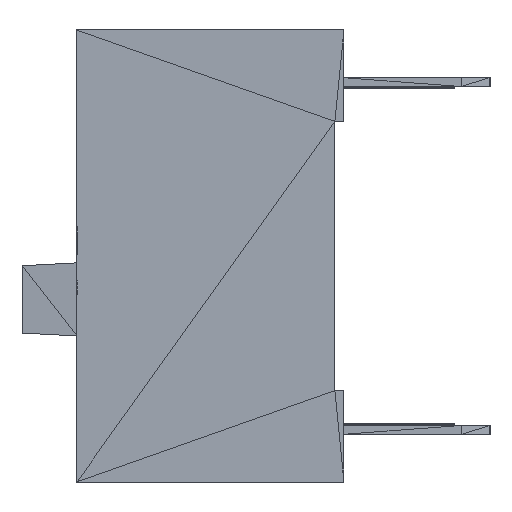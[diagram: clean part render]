
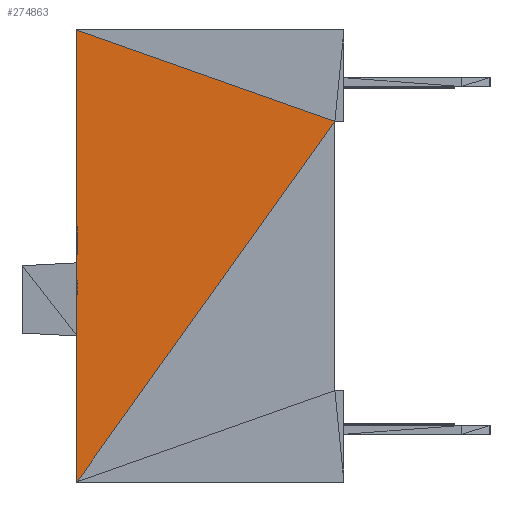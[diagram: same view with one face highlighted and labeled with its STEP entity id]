
A CAD part, left-side view. The second image highlights one B-rep face of the part: STEP entity #274863.
In plain terms, the highlighted planar face has unit normal (-1, 0, 0).
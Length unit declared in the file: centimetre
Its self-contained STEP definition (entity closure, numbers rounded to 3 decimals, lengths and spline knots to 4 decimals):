
#6291=DIRECTION('',(0.,0.,-1.));
#6492=DIRECTION('',(0.,-0.582,0.813));
#6494=DIRECTION('',(0.,-0.943,-0.334));
#18568=VECTOR('',#6291,1.);
#18769=VECTOR('',#6492,1.);
#18771=VECTOR('',#6494,1.);
#25315=CARTESIAN_POINT('',(-1.084,0.585,0.495));
#25317=CARTESIAN_POINT('',(-1.084,0.585,-0.495));
#25808=CARTESIAN_POINT('',(-1.084,0.02,0.295));
#35631=VERTEX_POINT('',#25315);
#35633=VERTEX_POINT('',#25317);
#36124=VERTEX_POINT('',#25808);
#46052=LINE('',#25315,#18771);
#46219=LINE('',#25317,#18769);
#46220=LINE('',#25315,#18568);
#77354=EDGE_CURVE('',#35631,#36124,#46052,.T.);
#77521=EDGE_CURVE('',#35633,#36124,#46219,.T.);
#77522=EDGE_CURVE('',#35631,#35633,#46220,.T.);
#108823=ORIENTED_EDGE('',*,*,#77521,.T.);
#108824=ORIENTED_EDGE('',*,*,#77522,.T.);
#139958=ORIENTED_EDGE('',*,*,#77354,.F.);
#171043=EDGE_LOOP('',(#108823,#139958,#108824));
#191807=FACE_OUTER_BOUND('',#171043,.T.);
#213174=DIRECTION('',(-1.,0.,0.));
#213175=AXIS2_PLACEMENT_3D('',#25317,#213174,#6492);
#254099=PLANE('',#213175);
#274863=ADVANCED_FACE('',(#191807),#254099,.T.);
